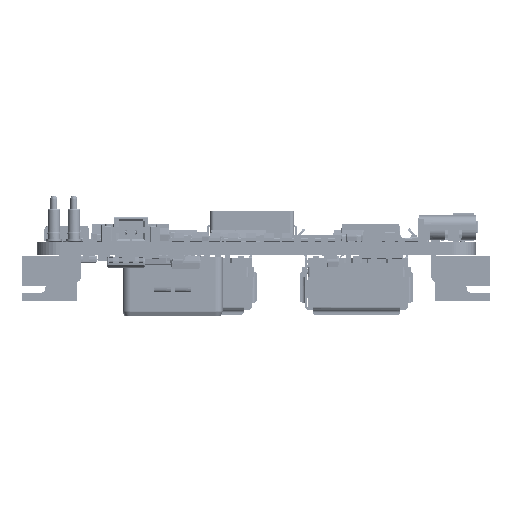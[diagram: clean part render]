
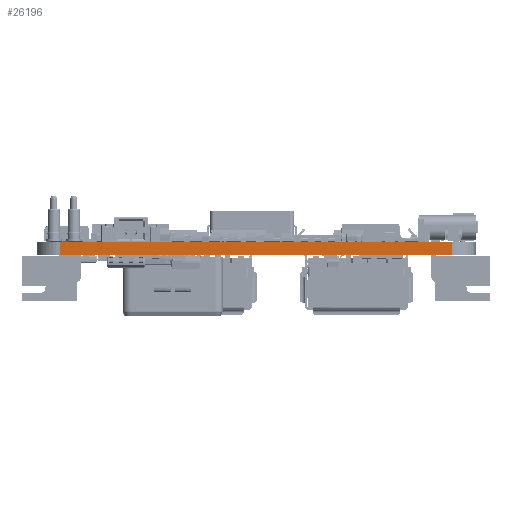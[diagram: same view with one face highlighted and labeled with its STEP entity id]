
A CAD part, left-side view. The second image highlights one B-rep face of the part: STEP entity #26196.
In plain terms, the highlighted planar face has unit normal (-1, 0, 0).
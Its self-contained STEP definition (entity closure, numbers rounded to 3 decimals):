
#26196=ADVANCED_FACE('',(#37179),#198201,.T.);
#37179=FACE_OUTER_BOUND('',#48564,.T.);
#48564=EDGE_LOOP('',(#70754,#70755,#70756,#70757));
#70754=ORIENTED_EDGE('',*,*,#122984,.T.);
#70755=ORIENTED_EDGE('',*,*,#122969,.T.);
#70756=ORIENTED_EDGE('',*,*,#122978,.F.);
#70757=ORIENTED_EDGE('',*,*,#122959,.F.);
#122959=EDGE_CURVE('',#179815,#179816,#151145,.T.);
#122969=EDGE_CURVE('',#179925,#179926,#151155,.T.);
#122978=EDGE_CURVE('',#179816,#179926,#151164,.T.);
#122984=EDGE_CURVE('',#179815,#179925,#151166,.T.);
#151145=B_SPLINE_CURVE_WITH_KNOTS('',1,(#276637,#276638),.UNSPECIFIED.,
 .F.,.F.,(2,2),(0.,50.),.UNSPECIFIED.);
#151155=B_SPLINE_CURVE_WITH_KNOTS('',1,(#276657,#276658),.UNSPECIFIED.,
 .F.,.F.,(2,2),(0.,50.),.UNSPECIFIED.);
#151164=B_SPLINE_CURVE_WITH_KNOTS('',1,(#276675,#276676),.UNSPECIFIED.,
 .F.,.F.,(2,2),(0.,1.6),.UNSPECIFIED.);
#151166=B_SPLINE_CURVE_WITH_KNOTS('',1,(#276691,#276692),.UNSPECIFIED.,
 .F.,.F.,(2,2),(0.,1.6),.UNSPECIFIED.);
#179815=VERTEX_POINT('',#276215);
#179816=VERTEX_POINT('',#276216);
#179925=VERTEX_POINT('',#276325);
#179926=VERTEX_POINT('',#276326);
#198201=PLANE('',#213746);
#213746=AXIS2_PLACEMENT_3D('',#276006,#222592,$);
#222592=DIRECTION('',(-1.,0.,0.));
#276006=CARTESIAN_POINT('',(-42.5,-30.,1.76));
#276215=CARTESIAN_POINT('',(-42.5,-25.,0.));
#276216=CARTESIAN_POINT('',(-42.5,25.,0.));
#276325=CARTESIAN_POINT('',(-42.5,-25.,1.6));
#276326=CARTESIAN_POINT('',(-42.5,25.,1.6));
#276637=CARTESIAN_POINT('',(-42.5,-25.,0.));
#276638=CARTESIAN_POINT('',(-42.5,25.,0.));
#276657=CARTESIAN_POINT('',(-42.5,-25.,1.6));
#276658=CARTESIAN_POINT('',(-42.5,25.,1.6));
#276675=CARTESIAN_POINT('',(-42.5,25.,0.));
#276676=CARTESIAN_POINT('',(-42.5,25.,1.6));
#276691=CARTESIAN_POINT('',(-42.5,-25.,0.));
#276692=CARTESIAN_POINT('',(-42.5,-25.,1.6));
